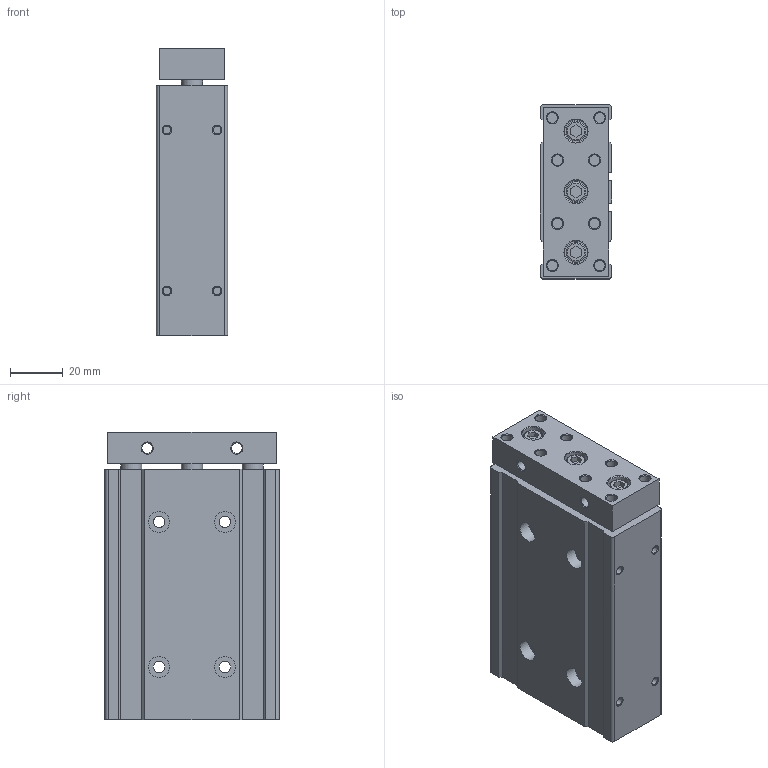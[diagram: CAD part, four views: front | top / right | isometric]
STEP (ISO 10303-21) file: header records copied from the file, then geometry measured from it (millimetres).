
FILE_DESCRIPTION((''),'2;1');
FILE_NAME('I:\3D電子目錄\氣缸\TB(U)\TB(U)16\TB(U)16\TB(U)16x50.stp','2007-08-06T08:09:56',('Administrator'),(''),'Autodesk Inventor 2008','Autodesk Inventor 2008','');
FILE_SCHEMA(('AUTOMOTIVE_DESIGN { 1 0 10303 214 1 1 1 1 }'));
Length unit declared in the file: millimetre
Products named in the file (1): TB(U)16X50
Bounding box: 27 x 66 x 109 mm (x, y, z)
Volume: 173749.8 mm3; surface area: 34343.9 mm2
Topology: 1 solids, 1 shells, 182 faces, 392 edges, 250 vertices
Faces by surface type: plane 84, cylinder 52, cone 35, bspline 8, torus 3
Full cylindrical faces by diameter (mm): 3 x4, 4 x10, 4.4 x4, 5 x6, 7.5 x3, 8 x13, 8.5 x3, 15 x2, 18 x1
Entity records: 4600 total; most frequent: CARTESIAN_POINT 809, DIRECTION 800, ORIENTED_EDGE 600, EDGE_LOOP 340, AXIS2_PLACEMENT_3D 325, EDGE_CURVE 300, VERTEX_POINT 246, FACE_OUTER_BOUND 182
